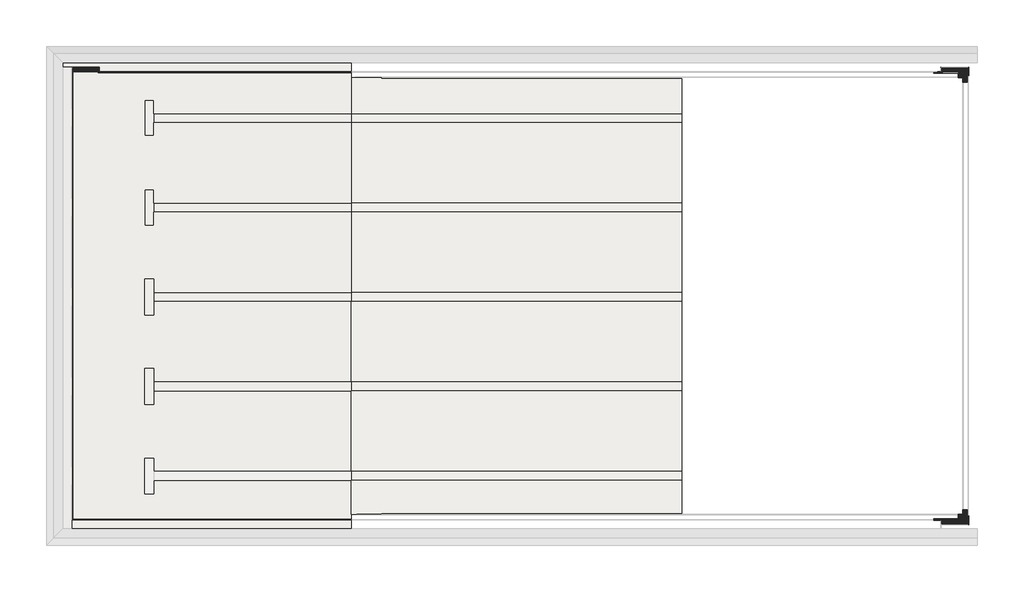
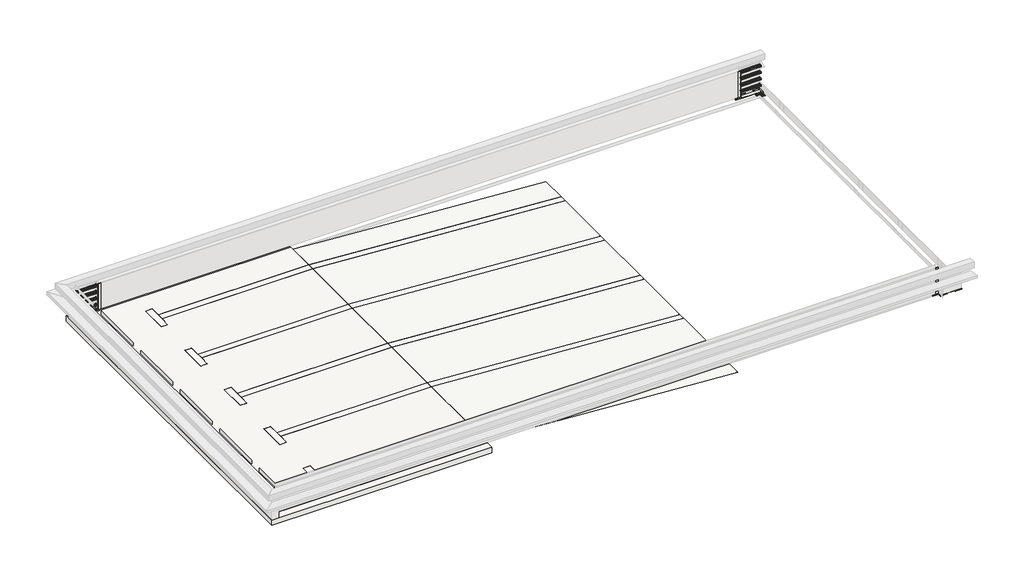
# One storey, part 2 of 2: 60 slabs.
"""IFC4 building model written with IfcOpenShell, lengths in millimetres."""

from ifc_helpers import new_model, si_unit, frame, origin, place, context, project, spatial, polyline, outline, extrude, faceted_brep, transform, mapped, element, save
from components import slab_8c31d14a, slab_e21bdb14, pieza_112_aqua_azul_liso_8ca1fe8c, pieza_112_aqua_azul_liso_81c370b3, slab_18940970, slab_beab1ff0, slab_1794afb2, slab_cde869ac, slab_0580c138, pieza_112_aqua_azul_liso_1c12e06b, pieza_013_aqua_azul_liso_0e0fd73c, pieza_013_aqua_azul_liso_43577704, pieza_019_aqua_azul_anti_slip_f86fad29, pieza_019_aqua_azul_anti_slip_0c3c7554, pieza_112_aqua_azul_liso_761c8a83, pieza_112_aqua_azul_liso_ec9f14e8, pieza_112_aqua_azul_liso_7653bbea

model = new_model("IFC4")

# Units and contexts
model_context = context("Model", 3, world=origin())
ifc_project = project(units=[si_unit("LENGTHUNIT", "METRE", prefix="MILLI")], contexts=[model_context])

# Site, building, storey
site = spatial("IfcSite", under=ifc_project)
building = spatial("IfcBuilding", under=site)
storey = spatial("IfcBuildingStorey", under=building, Name="3_NFondo1 -1.2", Elevation=-1200.4)

# Slabs
placement = place(None, origin())
element("IfcSlab", 1, ObjectType="GENÉRICO_LOSA PISCINA_Estructura_20 cm", at=placement, inside=storey, context=model_context, shape_type="SweptSolid", body=[
    extrude(outline(polyline([(15209.434436, -25430.1286078), (15209.434436, -38448.7332692), (7169.1610246, -38448.7332692), (7169.1610246, -25430.1286078), (15209.434436, -25430.1286078)])), frame((0.0, 0.0, -1410.4), z_axis=(0.0, 0.0, 1.0), x_axis=(1.0, 0.0, 0.0)), (0.0, 0.0, 1.0), 200.0),
])
element("IfcSlab", 2, ObjectType="Pieza 122 G1_Patrón Recto_Aqua_Azul_Liso", at=placement, inside=storey, context=model_context, shape_type="SweptSolid", body=[
    extrude(outline(polyline([(8149.4078475, -25719.4598578), (15209.434436, -25719.4598578), (15209.434436, -26844.4598578), (9709.4610246, -26844.4598578), (9709.4610246, -26469.4598578), (9459.4610246, -26469.4598578), (9459.4610246, -27469.4598578), (9709.4610246, -27469.4598578), (9709.4610246, -27094.4598578), (15209.434436, -27094.4598578), (15209.434436, -29344.4598578), (9709.4610246, -29344.4598578), (9709.4610246, -28969.4598578), (9459.4610246, -28969.4598578), (9459.4610246, -29969.4598578), (9709.4610246, -29969.4598578), (9709.4610246, -29594.4598578), (15209.434436, -29594.4598578), (15209.434436, -31844.4598578), (9709.4610246, -31844.4598578), (9709.4610246, -31469.4598578), (9459.4610246, -31469.4598578), (9459.4610246, -32469.4598578), (9709.4610246, -32469.4598578), (9709.4610246, -32094.4598578), (15209.434436, -32094.4598578), (15209.434436, -34344.4598578), (9709.4610246, -34344.4598578), (9709.4610246, -33969.4598578), (9459.4610246, -33969.4598578), (9459.4610246, -34969.4598578), (9709.4610246, -34969.4598578), (9709.4610246, -34594.4598578), (15209.434436, -34594.4598578), (15209.434436, -36844.4598578), (9709.4610246, -36844.4598578), (9709.4610246, -36469.4598578), (9459.4610246, -36469.4598578), (9459.4610246, -37469.4598578), (9709.4610246, -37469.4598578), (9709.4610246, -37094.4598578), (15209.434436, -37094.4598578), (15209.434436, -38159.4066807), (7459.4610246, -38159.4066807), (7459.4610246, -25590.6236308), (8149.4078475, -25590.6236308), (8149.4078475, -25719.4598578)])), frame((0.0, 0.0, -1209.4), z_axis=(0.0, 0.0, 1.0), x_axis=(1.0, 0.0, 0.0)), (0.0, 0.0, 1.0), 9.0),
])
element("IfcSlab", 3, ObjectType="Pieza 122 G1_Patrón Recto_Aqua_Azul_Liso", at=placement, inside=storey, context=model_context, shape_type="Brep", body=[
    faceted_brep([(24440.434436, -25867.6080096, -1809.4189915), (24440.434436, -26844.4598578, -1809.4189915), (15209.434436, -26844.4598578, -1209.4189915), (15209.434436, -25839.4332692, -1209.4189915), (16047.0501604, -25839.4332692, -1263.8626525), (16047.0501604, -25867.6080096, -1263.8626525), (24440.434436, -25867.6080096, -1800.4), (16047.0501604, -25867.6080096, -1254.843661), (16047.0501604, -25839.4332692, -1254.843661), (15209.434436, -25839.4332692, -1200.4), (15209.434436, -26844.4598578, -1200.4), (24440.434436, -26844.4598578, -1800.4)], [[[0, 1, 2, 3, 4, 5]], [[6, 7, 8, 9, 10, 11]], [[1, 0, 6, 11]], [[2, 1, 11, 10]], [[3, 2, 10, 9]], [[4, 3, 9, 8]], [[5, 4, 8, 7]], [[0, 5, 7, 6]]]),
])
element("IfcSlab", 4, ObjectType="Pieza 122 G1_Patrón Recto_Aqua_Marino_Anti-Slip", at=placement, inside=storey, context=model_context, shape_type="SweptSolid", body=[
    extrude(outline(polyline([(31709.4610246, -25720.4919001), (31709.4610246, -25590.6236308), (32399.4078475, -25590.6236308), (32399.4078475, -25720.4919001), (31709.4610246, -25720.4919001)])), frame((0.0, 0.0, -1209.4), z_axis=(0.0, 0.0, 1.0), x_axis=(1.0, 0.0, 0.0)), (0.0, 0.0, 1.0), 9.0),
])
element("IfcSlab", 5, ObjectType="Pieza 122 G1_Patrón Recto_Aqua_Marino_Anti-Slip", at=placement, inside=storey, context=model_context, shape_type="SweptSolid", body=[
    extrude(outline(polyline([(31709.4610246, -38158.3746383), (32399.4078475, -38158.3746383), (32399.4078475, -38288.2429076), (31709.4610246, -38288.2429076), (31709.4610246, -38158.3746383)])), frame((0.0, 0.0, -1209.4), z_axis=(0.0, 0.0, 1.0), x_axis=(1.0, 0.0, 0.0)), (0.0, 0.0, 1.0), 9.0),
])
element("IfcSlab", 6, ObjectType="Pieza 122 G1_Patrón Recto_Aqua_Marino_Liso", at=placement, inside=storey, context=model_context, shape_type="SweptSolid", body=[
    extrude(outline(polyline([(9709.4610246, -26469.4598578), (9709.4610246, -27469.4598578), (9459.4610246, -27469.4598578), (9459.4610246, -26469.4598578), (9709.4610246, -26469.4598578)])), frame((0.0, 0.0, -1209.4), z_axis=(0.0, 0.0, 1.0), x_axis=(1.0, 0.0, 0.0)), (0.0, 0.0, 1.0), 9.0),
])
element("IfcSlab", 7, ObjectType="Pieza 122 G1_Patrón Recto_Aqua_Marino_Liso", at=placement, inside=storey, context=model_context, shape_type="SweptSolid", body=[
    extrude(outline(polyline([(15209.434436, -26844.4598578), (15209.434436, -27094.4598578), (9709.4610246, -27094.4598578), (9709.4610246, -26844.4598578), (15209.434436, -26844.4598578)])), frame((0.0, 0.0, -1209.4), z_axis=(0.0, 0.0, 1.0), x_axis=(1.0, 0.0, 0.0)), (0.0, 0.0, 1.0), 9.0),
])
element("IfcSlab", 8, ObjectType="Pieza 122 G1_Patrón Recto_Aqua_Marino_Liso", at=placement, inside=storey, context=model_context, shape_type="SweptSolid", body=[
    extrude(outline(polyline([(9709.4610246, -28969.4598578), (9709.4610246, -29969.4598578), (9459.4610246, -29969.4598578), (9459.4610246, -28969.4598578), (9709.4610246, -28969.4598578)])), frame((0.0, 0.0, -1209.4), z_axis=(0.0, 0.0, 1.0), x_axis=(1.0, 0.0, 0.0)), (0.0, 0.0, 1.0), 9.0),
])
element("IfcSlab", 9, ObjectType="Pieza 122 G1_Patrón Recto_Aqua_Marino_Liso", at=placement, inside=storey, context=model_context, shape_type="SweptSolid", body=[
    extrude(outline(polyline([(15209.434436, -29344.4598578), (15209.434436, -29594.4598578), (9709.4610246, -29594.4598578), (9709.4610246, -29344.4598578), (15209.434436, -29344.4598578)])), frame((0.0, 0.0, -1209.4), z_axis=(0.0, 0.0, 1.0), x_axis=(1.0, 0.0, 0.0)), (0.0, 0.0, 1.0), 9.0),
])
element("IfcSlab", 10, ObjectType="Pieza 122 G1_Patrón Recto_Aqua_Marino_Liso", at=placement, inside=storey, context=model_context, shape_type="SweptSolid", body=[
    extrude(outline(polyline([(9709.4610246, -31469.4598578), (9709.4610246, -32469.4598578), (9459.4610246, -32469.4598578), (9459.4610246, -31469.4598578), (9709.4610246, -31469.4598578)])), frame((0.0, 0.0, -1209.4), z_axis=(0.0, 0.0, 1.0), x_axis=(1.0, 0.0, 0.0)), (0.0, 0.0, 1.0), 9.0),
])
element("IfcSlab", 11, ObjectType="Pieza 122 G1_Patrón Recto_Aqua_Marino_Liso", at=placement, inside=storey, context=model_context, shape_type="SweptSolid", body=[
    extrude(outline(polyline([(15209.434436, -31844.4598578), (15209.434436, -32094.4598578), (9709.4610246, -32094.4598578), (9709.4610246, -31844.4598578), (15209.434436, -31844.4598578)])), frame((0.0, 0.0, -1209.4), z_axis=(0.0, 0.0, 1.0), x_axis=(1.0, 0.0, 0.0)), (0.0, 0.0, 1.0), 9.0),
])
element("IfcSlab", 12, ObjectType="Pieza 122 G1_Patrón Recto_Aqua_Marino_Liso", at=placement, inside=storey, context=model_context, shape_type="SweptSolid", body=[
    extrude(outline(polyline([(9709.4610246, -33969.4598578), (9709.4610246, -34969.4598578), (9459.4610246, -34969.4598578), (9459.4610246, -33969.4598578), (9709.4610246, -33969.4598578)])), frame((0.0, 0.0, -1209.4), z_axis=(0.0, 0.0, 1.0), x_axis=(1.0, 0.0, 0.0)), (0.0, 0.0, 1.0), 9.0),
])
element("IfcSlab", 13, ObjectType="Pieza 122 G1_Patrón Recto_Aqua_Marino_Liso", at=placement, inside=storey, context=model_context, shape_type="SweptSolid", body=[
    extrude(outline(polyline([(15209.434436, -34344.4598578), (15209.434436, -34594.4598578), (9709.4610246, -34594.4598578), (9709.4610246, -34344.4598578), (15209.434436, -34344.4598578)])), frame((0.0, 0.0, -1209.4), z_axis=(0.0, 0.0, 1.0), x_axis=(1.0, 0.0, 0.0)), (0.0, 0.0, 1.0), 9.0),
])
element("IfcSlab", 14, ObjectType="Pieza 122 G1_Patrón Recto_Aqua_Marino_Liso", at=placement, inside=storey, context=model_context, shape_type="SweptSolid", body=[
    extrude(outline(polyline([(-1209.4189938, 15209.434436), (-1809.4189938, 24439.880421), (-1800.4, 24439.880421), (-1200.4, 15209.434436), (-1209.4189938, 15209.434436)])), frame((0.0, -27094.4953163, 0.0), z_axis=(0.0, 1.0, 0.0), x_axis=(0.0, 0.0, 1.0)), (0.0, 0.0, 1.0), 250.0354585),
])
element("IfcSlab", 15, ObjectType="Pieza 122 G1_Patrón Recto_Aqua_Marino_Liso", at=placement, inside=storey, context=model_context, shape_type="SweptSolid", body=[
    extrude(outline(polyline([(-1209.4189938, 15209.434436), (-1809.4189938, 24439.880421), (-1800.4, 24439.880421), (-1200.4, 15209.434436), (-1209.4189938, 15209.434436)])), frame((0.0, -29594.4953163, 0.0), z_axis=(0.0, 1.0, 0.0), x_axis=(0.0, 0.0, 1.0)), (0.0, 0.0, 1.0), 250.0354585),
])
element("IfcSlab", 16, ObjectType="Pieza 122 G1_Patrón Recto_Aqua_Marino_Liso", at=placement, inside=storey, context=model_context, shape_type="SweptSolid", body=[
    extrude(outline(polyline([(-1209.4189938, 15209.434436), (-1809.4189938, 24439.880421), (-1800.4, 24439.880421), (-1200.4, 15209.434436), (-1209.4189938, 15209.434436)])), frame((0.0, -32094.4953163, 0.0), z_axis=(0.0, 1.0, 0.0), x_axis=(0.0, 0.0, 1.0)), (0.0, 0.0, 1.0), 250.0354585),
])
element("IfcSlab", 17, ObjectType="Pieza 122 G1_Patrón Recto_Aqua_Marino_Liso", at=placement, inside=storey, context=model_context, shape_type="SweptSolid", body=[
    extrude(outline(polyline([(-1209.4189938, 15209.434436), (-1809.4189938, 24439.880421), (-1800.4, 24439.880421), (-1200.4, 15209.434436), (-1209.4189938, 15209.434436)])), frame((0.0, -34594.4953163, 0.0), z_axis=(0.0, 1.0, 0.0), x_axis=(0.0, 0.0, 1.0)), (0.0, 0.0, 1.0), 250.0354585),
])
element("IfcSlab", 18, ObjectType="Pieza 122 G1_Patrón Recto_Aqua_Marino_Liso", at=placement, inside=storey, context=model_context, shape_type="SweptSolid", body=[
    extrude(outline(polyline([(-1209.4189938, 15209.434436), (-1809.4189938, 24439.880421), (-1800.4, 24439.880421), (-1200.4, 15209.434436), (-1209.4189938, 15209.434436)])), frame((0.0, -37094.4953163, 0.0), z_axis=(0.0, 1.0, 0.0), x_axis=(0.0, 0.0, 1.0)), (0.0, 0.0, 1.0), 250.0354585),
])
element("IfcSlab", 19, ObjectType="Pieza 122 G1_Patrón Recto_Aqua_Azul_Liso", at=placement, inside=storey, context=model_context, shape_type="SweptSolid", body=[
    extrude(outline(polyline([(-1209.4189915, 15209.434436), (-1809.4189915, 24440.434436), (-1800.4, 24440.434436), (-1200.4, 15209.434436), (-1209.4189915, 15209.434436)])), frame((0.0, -29344.4598578, 0.0), z_axis=(0.0, 1.0, 0.0), x_axis=(0.0, 0.0, 1.0)), (0.0, 0.0, 1.0), 2249.9645415),
])
element("IfcSlab", 20, ObjectType="Pieza 122 G1_Patrón Recto_Aqua_Azul_Liso", at=placement, inside=storey, context=model_context, shape_type="SweptSolid", body=[
    extrude(outline(polyline([(-1209.4189915, 15209.434436), (-1809.4189915, 24440.434436), (-1800.4, 24440.434436), (-1200.4, 15209.434436), (-1209.4189915, 15209.434436)])), frame((0.0, -31844.477587, 0.0), z_axis=(0.0, 1.0, 0.0), x_axis=(0.0, 0.0, 1.0)), (0.0, 0.0, 1.0), 2249.9645415),
])
element("IfcSlab", 21, ObjectType="Pieza 122 G1_Patrón Recto_Aqua_Azul_Liso", at=placement, inside=storey, context=model_context, shape_type="SweptSolid", body=[
    extrude(outline(polyline([(-1209.4189915, 15209.434436), (-1809.4189915, 24440.434436), (-1800.4, 24440.434436), (-1200.4, 15209.434436), (-1209.4189915, 15209.434436)])), frame((0.0, -34344.477587, 0.0), z_axis=(0.0, 1.0, 0.0), x_axis=(0.0, 0.0, 1.0)), (0.0, 0.0, 1.0), 2249.9645415),
])
element("IfcSlab", 22, ObjectType="Pieza 122 G1_Patrón Recto_Aqua_Azul_Liso", at=placement, inside=storey, context=model_context, shape_type="SweptSolid", body=[
    extrude(outline(polyline([(-1209.4189915, 15209.434436), (-1809.4189915, 24440.434436), (-1800.4, 24440.434436), (-1200.4, 15209.434436), (-1209.4189915, 15209.434436)])), frame((0.0, -36844.4598578, 0.0), z_axis=(0.0, 1.0, 0.0), x_axis=(0.0, 0.0, 1.0)), (0.0, 0.0, 1.0), 2249.9645415),
])
element("IfcSlab", 23, ObjectType="Pieza 122 G1_Patrón Recto_Aqua_Azul_Liso", at=placement, inside=storey, context=model_context, shape_type="Brep", body=[
    faceted_brep([(24440.434436, -37094.5130455, -1809.4189915), (24440.434436, -38011.2585288, -1809.4189915), (16047.1422245, -38011.2585288, -1263.8686365), (16047.1422245, -38039.4332692, -1263.8686365), (15209.434436, -38039.4332692, -1209.4189915), (15209.434436, -37094.5130455, -1209.4189915), (24440.434436, -37094.5130455, -1800.4), (15209.434436, -37094.5130455, -1200.4), (15209.434436, -38039.4332692, -1200.4), (16047.1422245, -38039.4332692, -1254.849645), (16047.1422245, -38011.2585288, -1254.849645), (24440.434436, -38011.2585288, -1800.4)], [[[0, 1, 2, 3, 4, 5]], [[6, 7, 8, 9, 10, 11]], [[1, 0, 6, 11]], [[5, 4, 8, 7]], [[0, 5, 7, 6]], [[2, 1, 11, 10]], [[3, 2, 10, 9]], [[4, 3, 9, 8]]]),
])
slab_shape = slab_8c31d14a(model_context)
element("IfcSlab", 24, ObjectType="ROSA GRES_003 (corte) : Pieza 003_Aqua_Marino_Anti-Slip", at=placement, inside=storey, context=model_context, shape_type="MappedRepresentation", body=[
    mapped(slab_shape, transform((32154.3513248, -25839.4332692, -1210.4), x_axis=(1.0, 0.0, 0.0), y_axis=(0.0, 1.0, 0.0), z_axis=(0.0, 0.0, 1.0))),
])
element("IfcSlab", 25, ObjectType="ROSA GRES_003 (corte) : Pieza 003_Aqua_Marino_Anti-Slip", at=placement, inside=storey, context=model_context, shape_type="MappedRepresentation", body=[
    mapped(slab_shape, transform((32279.434436, -37914.3746383, -1210.4), x_axis=(0.0, -1.0, 0.0), y_axis=(1.0, 0.0, 0.0), z_axis=(0.0, 0.0, 1.0))),
])
slab_2_shape = slab_e21bdb14(model_context)
element("IfcSlab", 26, ObjectType="ROSA GRES_003 (corte) : Pieza 003_Aqua_Marino_Anti-Slip", at=placement, inside=storey, context=model_context, shape_type="MappedRepresentation", body=[
    mapped(slab_2_shape, transform((32279.434436, -25964.4919001, -1210.4), x_axis=(0.0, 1.0, 0.0), y_axis=(-1.0, 0.0, 0.0), z_axis=(0.0, 0.0, 1.0))),
])
element("IfcSlab", 27, ObjectType="ROSA GRES_003 (corte) : Pieza 003_Aqua_Marino_Anti-Slip", at=placement, inside=storey, context=model_context, shape_type="MappedRepresentation", body=[
    mapped(slab_2_shape, transform((32154.3513248, -38039.4332692, -1210.4), x_axis=(1.0, 0.0, 0.0), y_axis=(0.0, 1.0, 0.0), z_axis=(0.0, 0.0, 1.0))),
])
pieza_112_aqua_azul_liso_shape = pieza_112_aqua_azul_liso_8ca1fe8c(model_context)
element("IfcSlab", 28, ObjectType="ROSA GRES_112 (corte) : Pieza 112_Aqua_Marino_Liso", at=placement, inside=storey, context=model_context, shape_type="MappedRepresentation", body=[
    mapped(pieza_112_aqua_azul_liso_shape, transform((32439.4078475, -38084.726651, -1210.5), x_axis=(0.0, -1.0, 0.0), y_axis=(1.0, 0.0, 0.0), z_axis=(0.0, 0.0, 1.0))),
])
element("IfcSlab", 29, ObjectType="ROSA GRES_112 (corte) : Pieza 112_Aqua_Marino_Liso", at=placement, inside=storey, context=model_context, shape_type="MappedRepresentation", body=[
    mapped(pieza_112_aqua_azul_liso_shape, transform((32195.840686, -25550.6236308, -1210.5), x_axis=(1.0, 0.0, 0.0), y_axis=(0.0, 1.0, 0.0), z_axis=(0.0, 0.0, 1.0))),
])
element("IfcSlab", 30, ObjectType="ROSA GRES_112 (corte) : Pieza 112_Aqua_Marino_Liso", at=placement, inside=storey, context=model_context, shape_type="MappedRepresentation", body=[
    mapped(pieza_112_aqua_azul_liso_shape, transform((31913.028186, -38328.2429076, -1210.5), x_axis=(-1.0, 0.0, 0.0), y_axis=(0.0, -1.0, 0.0), z_axis=(0.0, 0.0, 1.0))),
])
pieza_112_aqua_azul_liso_2_shape = pieza_112_aqua_azul_liso_81c370b3(model_context)
element("IfcSlab", 31, ObjectType="ROSA GRES_112 (corte) : Pieza 112_Aqua_Marino_Liso", at=placement, inside=storey, context=model_context, shape_type="MappedRepresentation", body=[
    mapped(pieza_112_aqua_azul_liso_2_shape, transform((32195.8420145, -38328.2429076, -1210.5), x_axis=(1.0, 0.0, 0.0), y_axis=(0.0, 1.0, 0.0), z_axis=(0.0, 0.0, 1.0))),
])
element("IfcSlab", 32, ObjectType="ROSA GRES_112 (corte) : Pieza 112_Aqua_Marino_Liso", at=placement, inside=storey, context=model_context, shape_type="MappedRepresentation", body=[
    mapped(pieza_112_aqua_azul_liso_2_shape, transform((32439.4078475, -25793.9986308, -1210.5), x_axis=(0.0, 1.0, 0.0), y_axis=(-1.0, 0.0, 0.0), z_axis=(0.0, 0.0, 1.0))),
])
element("IfcSlab", 33, ObjectType="ROSA GRES_112 (corte) : Pieza 112_Aqua_Marino_Liso", at=placement, inside=storey, context=model_context, shape_type="MappedRepresentation", body=[
    mapped(pieza_112_aqua_azul_liso_2_shape, transform((31913.028186, -25550.6236308, -1210.5), x_axis=(-1.0, 0.0, 0.0), y_axis=(0.0, -1.0, 0.0), z_axis=(0.0, 0.0, 1.0))),
])
slab_3_shape = slab_18940970(model_context)
element("IfcSlab", 34, ObjectType="ROSA GRES_112 (corte) : Pieza 112_Aqua_Marino_Liso", at=placement, inside=storey, context=model_context, shape_type="MappedRepresentation", body=[
    mapped(slab_3_shape, transform((31465.9578735, -25679.4598578, -1210.5), x_axis=(1.0, 0.0, 0.0), y_axis=(0.0, 1.0, 0.0), z_axis=(0.0, 0.0, 1.0))),
])
slab_4_shape = slab_beab1ff0(model_context)
element("IfcSlab", 35, ObjectType="ROSA GRES_112 (corte) : Pieza 112_Aqua_Marino_Liso", at=placement, inside=storey, context=model_context, shape_type="MappedRepresentation", body=[
    mapped(slab_4_shape, transform((31669.4610246, -25644.9286078, -1210.5), x_axis=(0.0, -1.0, 0.0), y_axis=(1.0, 0.0, 0.0), z_axis=(0.0, 0.0, 1.0))),
])
slab_5_shape = slab_1794afb2(model_context)
element("IfcSlab", 36, ObjectType="ROSA GRES_112 (corte) : Pieza 112_Aqua_Marino_Liso", at=placement, inside=storey, context=model_context, shape_type="MappedRepresentation", body=[
    mapped(slab_5_shape, transform((31669.4610246, -25644.9286078, -1210.5), x_axis=(0.0, 1.0, 0.0), y_axis=(-1.0, 0.0, 0.0), z_axis=(0.0, 0.0, 1.0))),
])
slab_6_shape = slab_cde869ac(model_context)
element("IfcSlab", 37, ObjectType="ROSA GRES_112 (corte) : Pieza 112_Aqua_Marino_Liso", at=placement, inside=storey, context=model_context, shape_type="MappedRepresentation", body=[
    mapped(slab_6_shape, transform((31669.4610246, -38233.9379307, -1210.5), x_axis=(0.0, 1.0, 0.0), y_axis=(-1.0, 0.0, 0.0), z_axis=(0.0, 0.0, 1.0))),
])
slab_7_shape = slab_0580c138(model_context)
element("IfcSlab", 38, ObjectType="ROSA GRES_112 (corte) : Pieza 112_Aqua_Marino_Liso", at=placement, inside=storey, context=model_context, shape_type="MappedRepresentation", body=[
    mapped(slab_7_shape, transform((31669.4610246, -38233.9379307, -1210.5), x_axis=(0.0, -1.0, 0.0), y_axis=(1.0, 0.0, 0.0), z_axis=(0.0, 0.0, 1.0))),
])
pieza_112_aqua_azul_liso_3_shape = pieza_112_aqua_azul_liso_1c12e06b(model_context)
element("IfcSlab", 39, ObjectType="ROSA GRES_112 (corte) : Pieza 112_Aqua_Marino_Liso", at=placement, inside=storey, context=model_context, shape_type="MappedRepresentation", body=[
    mapped(pieza_112_aqua_azul_liso_3_shape, transform((31465.9578735, -38199.4066807, -1210.5), x_axis=(1.0, 0.0, 0.0), y_axis=(0.0, 1.0, 0.0), z_axis=(0.0, 0.0, 1.0))),
])
pieza_013_aqua_azul_liso_shape = pieza_013_aqua_azul_liso_0e0fd73c(model_context)
element("IfcSlab", 40, ObjectType="ROSA GRES_013 : Pieza 013_Aqua_Azul_Liso", at=placement, inside=storey, context=model_context, shape_type="MappedRepresentation", body=[
    mapped(pieza_013_aqua_azul_liso_shape, transform((8178.6514198, -25681.4332692, -162.4), x_axis=(0.0, 0.0, -1.0), y_axis=(1.0, 0.0, 0.0), z_axis=(0.0, -1.0, 0.0))),
])
element("IfcSlab", 41, ObjectType="ROSA GRES_013 : Pieza 013_Aqua_Azul_Liso", at=placement, inside=storey, context=model_context, shape_type="MappedRepresentation", body=[
    mapped(pieza_013_aqua_azul_liso_shape, transform((31680.2174523, -38197.4332692, -162.4), x_axis=(0.0, 0.0, -1.0), y_axis=(-1.0, 0.0, 0.0), z_axis=(0.0, 1.0, 0.0))),
])
pieza_013_aqua_azul_liso_2_shape = pieza_013_aqua_azul_liso_43577704(model_context)
element("IfcSlab", 42, ObjectType="ROSA GRES_013 : Pieza 013_Aqua_Azul_Liso", at=placement, inside=storey, context=model_context, shape_type="MappedRepresentation", body=[
    mapped(pieza_013_aqua_azul_liso_2_shape, transform((31680.2174523, -25681.4332692, -162.4), x_axis=(0.0, 0.0, -1.0), y_axis=(1.0, 0.0, 0.0), z_axis=(0.0, -1.0, 0.0))),
])
pieza_019_aqua_azul_anti_slip_shape = pieza_019_aqua_azul_anti_slip_f86fad29(model_context)
element("IfcSlab", 43, ObjectType="ROSA GRES_019 : Pieza 019_Aqua_Azul_Anti-Slip", at=placement, inside=storey, context=model_context, shape_type="MappedRepresentation", body=[
    mapped(pieza_019_aqua_azul_anti_slip_shape, transform((31679.434436, -38197.4332692, -280.4), x_axis=(1.0, 0.0, 0.0), y_axis=(0.0, 1.0, 0.0), z_axis=(0.0, 0.0, 1.0))),
])
element("IfcSlab", 44, ObjectType="ROSA GRES_019 : Pieza 019_Aqua_Azul_Anti-Slip", at=placement, inside=storey, context=model_context, shape_type="MappedRepresentation", body=[
    mapped(pieza_019_aqua_azul_anti_slip_shape, transform((31679.434436, -38197.4332692, -530.4), x_axis=(1.0, 0.0, 0.0), y_axis=(0.0, 1.0, 0.0), z_axis=(0.0, 0.0, 1.0))),
])
element("IfcSlab", 45, ObjectType="ROSA GRES_019 : Pieza 019_Aqua_Azul_Anti-Slip", at=placement, inside=storey, context=model_context, shape_type="MappedRepresentation", body=[
    mapped(pieza_019_aqua_azul_anti_slip_shape, transform((31679.434436, -38197.4332692, -780.4), x_axis=(1.0, 0.0, 0.0), y_axis=(0.0, 1.0, 0.0), z_axis=(0.0, 0.0, 1.0))),
])
element("IfcSlab", 46, ObjectType="ROSA GRES_019 : Pieza 019_Aqua_Azul_Anti-Slip", at=placement, inside=storey, context=model_context, shape_type="MappedRepresentation", body=[
    mapped(pieza_019_aqua_azul_anti_slip_shape, transform((31679.434436, -38197.4332692, -1030.4), x_axis=(1.0, 0.0, 0.0), y_axis=(0.0, 1.0, 0.0), z_axis=(0.0, 0.0, 1.0))),
])
pieza_019_aqua_azul_anti_slip_2_shape = pieza_019_aqua_azul_anti_slip_0c3c7554(model_context)
element("IfcSlab", 47, ObjectType="ROSA GRES_019 : Pieza 019_Aqua_Azul_Anti-Slip", at=placement, inside=storey, context=model_context, shape_type="MappedRepresentation", body=[
    mapped(pieza_019_aqua_azul_anti_slip_2_shape, transform((31679.434436, -25681.4332692, -280.4), x_axis=(1.0, 0.0, 0.0), y_axis=(0.0, 1.0, 0.0), z_axis=(0.0, 0.0, 1.0))),
])
element("IfcSlab", 48, ObjectType="ROSA GRES_019 : Pieza 019_Aqua_Azul_Anti-Slip", at=placement, inside=storey, context=model_context, shape_type="MappedRepresentation", body=[
    mapped(pieza_019_aqua_azul_anti_slip_2_shape, transform((31679.434436, -25681.4332692, -530.4), x_axis=(1.0, 0.0, 0.0), y_axis=(0.0, 1.0, 0.0), z_axis=(0.0, 0.0, 1.0))),
])
element("IfcSlab", 49, ObjectType="ROSA GRES_019 : Pieza 019_Aqua_Azul_Anti-Slip", at=placement, inside=storey, context=model_context, shape_type="MappedRepresentation", body=[
    mapped(pieza_019_aqua_azul_anti_slip_2_shape, transform((31679.434436, -25681.4332692, -780.4), x_axis=(1.0, 0.0, 0.0), y_axis=(0.0, 1.0, 0.0), z_axis=(0.0, 0.0, 1.0))),
])
element("IfcSlab", 50, ObjectType="ROSA GRES_019 : Pieza 019_Aqua_Azul_Anti-Slip", at=placement, inside=storey, context=model_context, shape_type="MappedRepresentation", body=[
    mapped(pieza_019_aqua_azul_anti_slip_2_shape, transform((7429.434436, -25681.4332692, -780.4), x_axis=(1.0, 0.0, 0.0), y_axis=(0.0, 1.0, 0.0), z_axis=(0.0, 0.0, 1.0))),
])
element("IfcSlab", 51, ObjectType="ROSA GRES_019 : Pieza 019_Aqua_Azul_Anti-Slip", at=placement, inside=storey, context=model_context, shape_type="MappedRepresentation", body=[
    mapped(pieza_019_aqua_azul_anti_slip_2_shape, transform((7429.434436, -25681.4332692, -530.4), x_axis=(1.0, 0.0, 0.0), y_axis=(0.0, 1.0, 0.0), z_axis=(0.0, 0.0, 1.0))),
])
element("IfcSlab", 52, ObjectType="ROSA GRES_019 : Pieza 019_Aqua_Azul_Anti-Slip", at=placement, inside=storey, context=model_context, shape_type="MappedRepresentation", body=[
    mapped(pieza_019_aqua_azul_anti_slip_2_shape, transform((7429.434436, -25681.4332692, -280.4), x_axis=(1.0, 0.0, 0.0), y_axis=(0.0, 1.0, 0.0), z_axis=(0.0, 0.0, 1.0))),
])
element("IfcSlab", 53, ObjectType="ROSA GRES_019 : Pieza 019_Aqua_Azul_Anti-Slip", at=placement, inside=storey, context=model_context, shape_type="MappedRepresentation", body=[
    mapped(pieza_019_aqua_azul_anti_slip_2_shape, transform((7429.434436, -25681.4332692, -1030.4), x_axis=(1.0, 0.0, 0.0), y_axis=(0.0, 1.0, 0.0), z_axis=(0.0, 0.0, 1.0))),
])
element("IfcSlab", 54, ObjectType="ROSA GRES_019 : Pieza 019_Aqua_Azul_Anti-Slip", at=placement, inside=storey, context=model_context, shape_type="MappedRepresentation", body=[
    mapped(pieza_019_aqua_azul_anti_slip_2_shape, transform((31679.434436, -25681.4332692, -1030.4), x_axis=(1.0, 0.0, 0.0), y_axis=(0.0, 1.0, 0.0), z_axis=(0.0, 0.0, 1.0))),
])
element("IfcSlab", 55, ObjectType="ROSA GRES_112 (corte) : Pieza 112_Aqua_Azul_Liso", at=placement, inside=storey, context=model_context, shape_type="MappedRepresentation", body=[
    mapped(pieza_112_aqua_azul_liso_2_shape, transform((7662.9610246, -25550.6236308, -1210.4), x_axis=(-1.0, 0.0, 0.0), y_axis=(0.0, -1.0, 0.0), z_axis=(0.0, 0.0, 1.0))),
])
element("IfcSlab", 56, ObjectType="ROSA GRES_112 (corte) : Pieza 112_Aqua_Azul_Liso", at=placement, inside=storey, context=model_context, shape_type="MappedRepresentation", body=[
    mapped(pieza_112_aqua_azul_liso_shape, transform((7945.9078475, -25550.6236308, -1210.4), x_axis=(1.0, 0.0, 0.0), y_axis=(0.0, 1.0, 0.0), z_axis=(0.0, 0.0, 1.0))),
])
pieza_112_aqua_azul_liso_4_shape = pieza_112_aqua_azul_liso_761c8a83(model_context)
element("IfcSlab", 57, ObjectType="ROSA GRES_112 (corte) : Pieza 112_Aqua_Azul_Liso", at=placement, inside=storey, context=model_context, shape_type="MappedRepresentation", body=[
    mapped(pieza_112_aqua_azul_liso_4_shape, transform((8189.4078475, -25649.4332692, -1210.4), x_axis=(0.0, 1.0, 0.0), y_axis=(-1.0, 0.0, 0.0), z_axis=(0.0, 0.0, 1.0))),
])
pieza_112_aqua_azul_liso_5_shape = pieza_112_aqua_azul_liso_ec9f14e8(model_context)
element("IfcSlab", 58, ObjectType="ROSA GRES_112 (corte) : Pieza 112_Aqua_Azul_Liso", at=placement, inside=storey, context=model_context, shape_type="MappedRepresentation", body=[
    mapped(pieza_112_aqua_azul_liso_5_shape, transform((7419.4610246, -25719.4598578, -1210.4), x_axis=(0.0, 1.0, 0.0), y_axis=(-1.0, 0.0, 0.0), z_axis=(0.0, 0.0, 1.0))),
])
element("IfcSlab", 59, ObjectType="ROSA GRES_112 (corte) : Pieza 112_Aqua_Azul_Liso", at=placement, inside=storey, context=model_context, shape_type="MappedRepresentation", body=[
    mapped(pieza_112_aqua_azul_liso_3_shape, transform((8392.887561, -25679.4598578, -1210.4), x_axis=(-1.0, 0.0, 0.0), y_axis=(0.0, -1.0, 0.0), z_axis=(0.0, 0.0, 1.0))),
])
pieza_112_aqua_azul_liso_6_shape = pieza_112_aqua_azul_liso_7653bbea(model_context)
element("IfcSlab", 60, ObjectType="ROSA GRES_112 (corte) : Pieza 112_Aqua_Azul_Liso", at=placement, inside=storey, context=model_context, shape_type="MappedRepresentation", body=[
    mapped(pieza_112_aqua_azul_liso_6_shape, transform((8189.4078475, -25649.4723317, -1210.4), x_axis=(0.0, -1.0, 0.0), y_axis=(1.0, 0.0, 0.0), z_axis=(0.0, 0.0, 1.0))),
])

save(model, "model.ifc")
